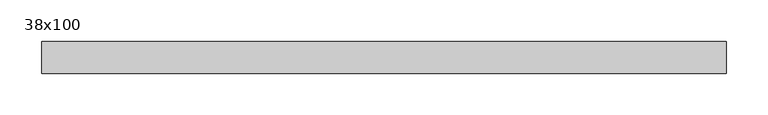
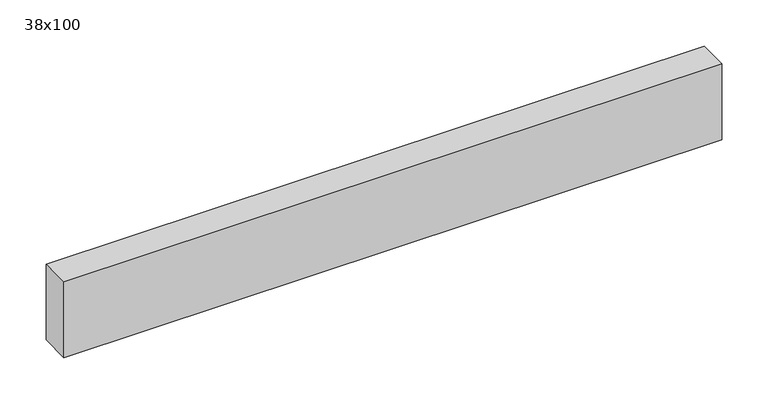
"""IFC4 building model written with IfcOpenShell, lengths in millimetres: beam geometry, Poutre - Bois de construction de dimensions courantes : 38x100."""

from ifc_helpers import new_model, si_unit, frame, origin, place, context, project, spatial, polyline, outline, extrude, source, transform, mapped, element, save


def beam_38x100_1f6d3f12(model_context):
    return source(origin(), model_context, "Body", "SweptSolid", [
        extrude(outline(polyline([(531.5, 19.05), (531.5, -19.05), (-288.5, -19.05), (-288.5, 19.05), (531.5, 19.05)])), frame((0.0, 0.0, -50.0), z_axis=(0.0, 0.0, 1.0), x_axis=(1.0, 0.0, 0.0)), (0.0, 0.0, 1.0), 100.0),
    ])


if __name__ == "__main__":
    model = new_model("IFC4")
    model_context = context("Model", 3, world=origin())
    ifc_project = project(units=[si_unit("LENGTHUNIT", "METRE", prefix="MILLI")], contexts=[model_context])
    site = spatial("IfcSite", under=ifc_project)
    building = spatial("IfcBuilding", under=site)
    placement = place(None, origin())
    beam_38x100_shape = beam_38x100_1f6d3f12(model_context)
    element("IfcBeam", 1, ObjectType="Poutre - Bois de construction de dimensions courantes : 38x100", at=placement, inside=building, context=model_context, shape_type="MappedRepresentation", body=[
        mapped(beam_38x100_shape, transform((0.0, 0.0, 0.0), x_axis=(1.0, 0.0, 0.0), y_axis=(0.0, 1.0, 0.0), z_axis=(0.0, 0.0, 1.0))),
    ])
    save(model, "model.ifc")
